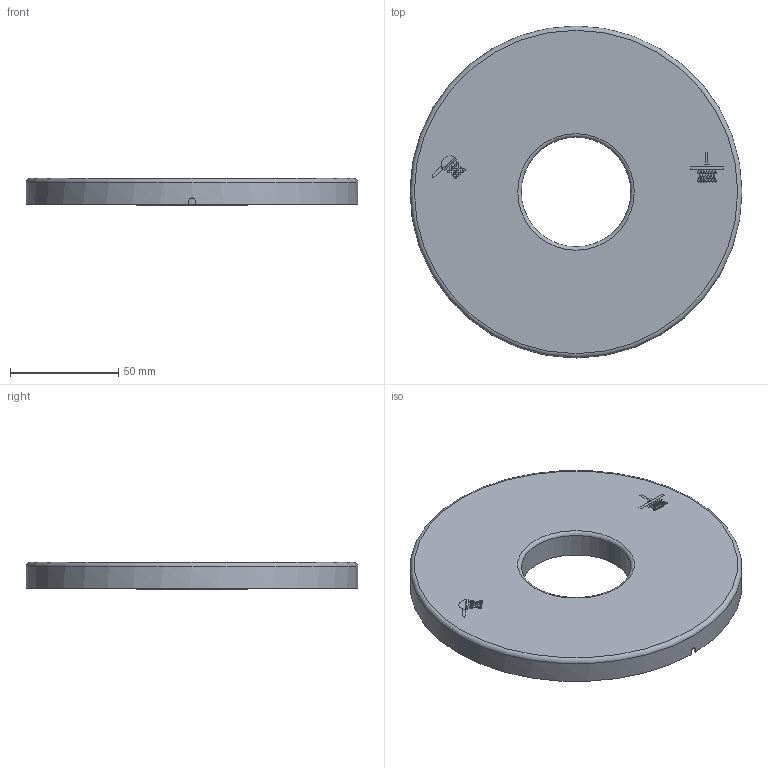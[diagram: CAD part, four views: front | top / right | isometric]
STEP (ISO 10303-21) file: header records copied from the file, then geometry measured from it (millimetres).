
FILE_DESCRIPTION(/* description */ (''),/* implementation_level */ '2;1');
FILE_NAME(/* name */ 'X:\Utilisateurs\Simon\PLTM144 3D.stp',/* time_stamp */ '2018-02-05T11:19:43-05:00',/* author */ ('simonb'),/* organization */ (''),/* preprocessor_version */ 'ST-DEVELOPER v17',/* originating_system */ 'Autodesk Inventor 2018',/* authorisation */ '');
FILE_SCHEMA (('AUTOMOTIVE_DESIGN { 1 0 10303 214 3 1 1 }'));
Length unit declared in the file: millimetre
Products named in the file (2): PLTM144; 050-601
Assembly tree (1 placements, depth 2):
  PLTM144
    050-601
Bounding box: 153 x 153 x 12.5 mm (x, y, z)
Volume: 23082.1 mm3; surface area: 46804.7 mm2
Topology: 1 solids, 1 shells, 291 faces, 742 edges, 494 vertices
Faces by surface type: bspline 178, plane 103, cylinder 5, torus 4, cone 1
Full cylindrical faces by diameter (mm): 50.5 x1, 52.5 x1, 151 x1, 153 x1
Entity records: 9795 total; most frequent: CARTESIAN_POINT 3887, ORIENTED_EDGE 1484, EDGE_CURVE 742, DIRECTION 636, VERTEX_POINT 494, LINE 362, VECTOR 362, B_SPLINE_CURVE_WITH_KNOTS 359
